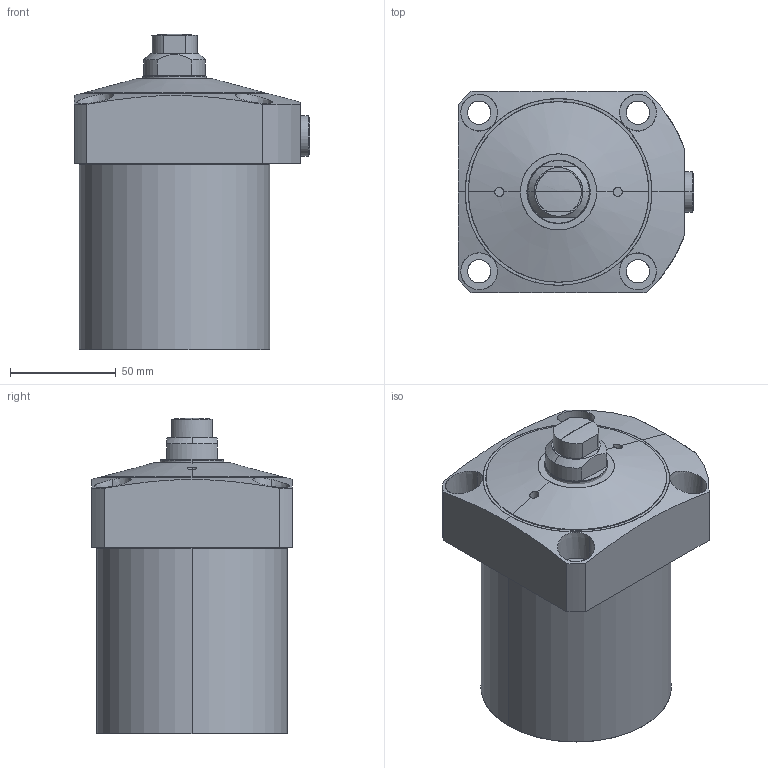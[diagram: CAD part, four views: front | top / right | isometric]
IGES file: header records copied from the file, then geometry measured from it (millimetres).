
Start section: SolidWorks IGES file using analytic representation for surfaces
Global section: file name: F:\clasys\90\LC0902-C.IGS; native system: SolidWorks 2010; preprocessor: SolidWorks 2010; author: nijil; date: 130721.000013; units: millimetre
Bounding box: 111.5 x 95 x 149 mm (x, y, z)
Surface area: 64918.6 mm2 (no closed solid volume)
Topology: 0 solids, 0 shells, 80 faces, 1784 edges, 1782 vertices
Faces by surface type: revolution 50, bspline 30
